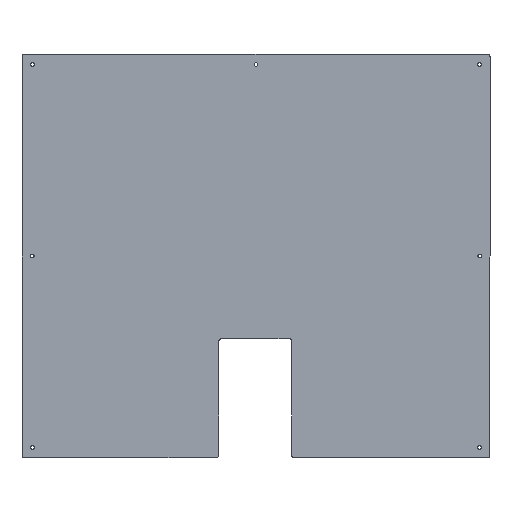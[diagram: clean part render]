
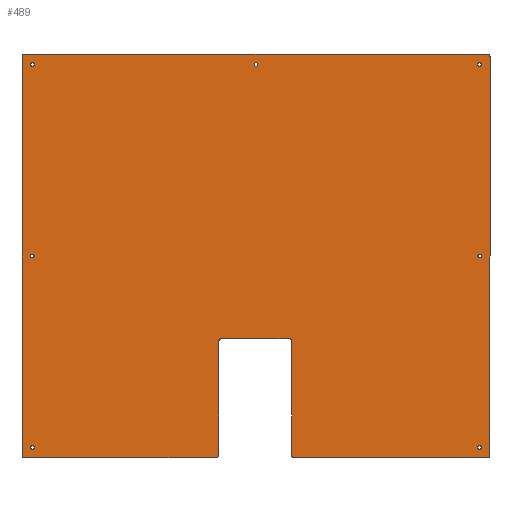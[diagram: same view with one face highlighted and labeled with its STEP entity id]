
A CAD part, left-side view. The second image highlights one B-rep face of the part: STEP entity #489.
In plain terms, the highlighted planar face has unit normal (-1, 0, 0).
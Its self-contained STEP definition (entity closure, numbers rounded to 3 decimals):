
#22=FACE_BOUND('',#82,.T.);
#23=FACE_BOUND('',#83,.T.);
#24=FACE_BOUND('',#84,.T.);
#25=FACE_BOUND('',#85,.T.);
#26=FACE_BOUND('',#86,.T.);
#27=FACE_BOUND('',#87,.T.);
#28=FACE_BOUND('',#88,.T.);
#35=PLANE('',#547);
#49=FACE_OUTER_BOUND('',#81,.T.);
#81=EDGE_LOOP('',(#385,#386,#387,#388,#389,#390,#391,#392,#393,#394,#395,
#396,#397,#398,#399,#400));
#82=EDGE_LOOP('',(#401));
#83=EDGE_LOOP('',(#402));
#84=EDGE_LOOP('',(#403));
#85=EDGE_LOOP('',(#404));
#86=EDGE_LOOP('',(#405));
#87=EDGE_LOOP('',(#406));
#88=EDGE_LOOP('',(#407));
#107=LINE('',#739,#146);
#117=LINE('',#790,#156);
#120=LINE('',#798,#159);
#123=LINE('',#806,#162);
#125=LINE('',#809,#164);
#126=LINE('',#814,#165);
#127=LINE('',#818,#166);
#128=LINE('',#822,#167);
#146=VECTOR('',#587,10.);
#156=VECTOR('',#633,10.);
#159=VECTOR('',#642,10.);
#162=VECTOR('',#651,10.);
#164=VECTOR('',#655,10.);
#165=VECTOR('',#660,10.);
#166=VECTOR('',#663,10.);
#167=VECTOR('',#666,10.);
#182=CIRCLE('',#520,5.);
#197=CIRCLE('',#538,5.);
#198=CIRCLE('',#541,5.);
#199=CIRCLE('',#544,5.);
#200=CIRCLE('',#548,5.);
#201=CIRCLE('',#549,5.);
#202=CIRCLE('',#550,5.);
#203=CIRCLE('',#551,5.);
#204=CIRCLE('',#552,3.5);
#205=CIRCLE('',#553,3.5);
#206=CIRCLE('',#554,3.5);
#207=CIRCLE('',#555,3.5);
#208=CIRCLE('',#556,3.5);
#209=CIRCLE('',#557,3.5);
#210=CIRCLE('',#558,3.5);
#213=VERTEX_POINT('',#729);
#214=VERTEX_POINT('',#731);
#216=VERTEX_POINT('',#737);
#237=VERTEX_POINT('',#783);
#238=VERTEX_POINT('',#784);
#239=VERTEX_POINT('',#789);
#240=VERTEX_POINT('',#793);
#241=VERTEX_POINT('',#797);
#242=VERTEX_POINT('',#801);
#243=VERTEX_POINT('',#805);
#244=VERTEX_POINT('',#811);
#245=VERTEX_POINT('',#813);
#246=VERTEX_POINT('',#815);
#247=VERTEX_POINT('',#817);
#248=VERTEX_POINT('',#819);
#249=VERTEX_POINT('',#821);
#250=VERTEX_POINT('',#824);
#251=VERTEX_POINT('',#826);
#252=VERTEX_POINT('',#828);
#253=VERTEX_POINT('',#830);
#254=VERTEX_POINT('',#832);
#255=VERTEX_POINT('',#834);
#256=VERTEX_POINT('',#836);
#259=EDGE_CURVE('',#213,#214,#182,.T.);
#263=EDGE_CURVE('',#216,#213,#107,.T.);
#285=EDGE_CURVE('',#237,#238,#197,.T.);
#288=EDGE_CURVE('',#239,#238,#117,.T.);
#290=EDGE_CURVE('',#239,#240,#198,.T.);
#292=EDGE_CURVE('',#241,#240,#120,.T.);
#294=EDGE_CURVE('',#241,#242,#199,.T.);
#296=EDGE_CURVE('',#242,#243,#123,.T.);
#298=EDGE_CURVE('',#237,#214,#125,.T.);
#299=EDGE_CURVE('',#244,#216,#200,.T.);
#300=EDGE_CURVE('',#245,#244,#126,.T.);
#301=EDGE_CURVE('',#246,#245,#201,.T.);
#302=EDGE_CURVE('',#247,#246,#127,.T.);
#303=EDGE_CURVE('',#248,#247,#202,.T.);
#304=EDGE_CURVE('',#249,#248,#128,.T.);
#305=EDGE_CURVE('',#243,#249,#203,.T.);
#306=EDGE_CURVE('',#250,#250,#204,.T.);
#307=EDGE_CURVE('',#251,#251,#205,.T.);
#308=EDGE_CURVE('',#252,#252,#206,.T.);
#309=EDGE_CURVE('',#253,#253,#207,.T.);
#310=EDGE_CURVE('',#254,#254,#208,.T.);
#311=EDGE_CURVE('',#255,#255,#209,.T.);
#312=EDGE_CURVE('',#256,#256,#210,.T.);
#385=ORIENTED_EDGE('',*,*,#259,.F.);
#386=ORIENTED_EDGE('',*,*,#263,.F.);
#387=ORIENTED_EDGE('',*,*,#299,.F.);
#388=ORIENTED_EDGE('',*,*,#300,.F.);
#389=ORIENTED_EDGE('',*,*,#301,.F.);
#390=ORIENTED_EDGE('',*,*,#302,.F.);
#391=ORIENTED_EDGE('',*,*,#303,.F.);
#392=ORIENTED_EDGE('',*,*,#304,.F.);
#393=ORIENTED_EDGE('',*,*,#305,.F.);
#394=ORIENTED_EDGE('',*,*,#296,.F.);
#395=ORIENTED_EDGE('',*,*,#294,.F.);
#396=ORIENTED_EDGE('',*,*,#292,.T.);
#397=ORIENTED_EDGE('',*,*,#290,.F.);
#398=ORIENTED_EDGE('',*,*,#288,.T.);
#399=ORIENTED_EDGE('',*,*,#285,.F.);
#400=ORIENTED_EDGE('',*,*,#298,.T.);
#401=ORIENTED_EDGE('',*,*,#306,.T.);
#402=ORIENTED_EDGE('',*,*,#307,.T.);
#403=ORIENTED_EDGE('',*,*,#308,.T.);
#404=ORIENTED_EDGE('',*,*,#309,.T.);
#405=ORIENTED_EDGE('',*,*,#310,.T.);
#406=ORIENTED_EDGE('',*,*,#311,.T.);
#407=ORIENTED_EDGE('',*,*,#312,.T.);
#489=ADVANCED_FACE('',(#49,#22,#23,#24,#25,#26,#27,#28),#35,.F.);
#520=AXIS2_PLACEMENT_3D('',#732,#580,#581);
#538=AXIS2_PLACEMENT_3D('',#785,#627,#628);
#541=AXIS2_PLACEMENT_3D('',#794,#637,#638);
#544=AXIS2_PLACEMENT_3D('',#802,#646,#647);
#547=AXIS2_PLACEMENT_3D('',#810,#656,#657);
#548=AXIS2_PLACEMENT_3D('',#812,#658,#659);
#549=AXIS2_PLACEMENT_3D('',#816,#661,#662);
#550=AXIS2_PLACEMENT_3D('',#820,#664,#665);
#551=AXIS2_PLACEMENT_3D('',#823,#667,#668);
#552=AXIS2_PLACEMENT_3D('',#825,#669,#670);
#553=AXIS2_PLACEMENT_3D('',#827,#671,#672);
#554=AXIS2_PLACEMENT_3D('',#829,#673,#674);
#555=AXIS2_PLACEMENT_3D('',#831,#675,#676);
#556=AXIS2_PLACEMENT_3D('',#833,#677,#678);
#557=AXIS2_PLACEMENT_3D('',#835,#679,#680);
#558=AXIS2_PLACEMENT_3D('',#837,#681,#682);
#580=DIRECTION('center_axis',(1.,0.,0.));
#581=DIRECTION('ref_axis',(0.,0.707,-0.707));
#587=DIRECTION('',(0.,1.,0.));
#627=DIRECTION('center_axis',(-1.,0.,0.));
#628=DIRECTION('ref_axis',(0.,-0.707,0.707));
#633=DIRECTION('',(0.,-1.,0.));
#637=DIRECTION('center_axis',(-1.,0.,0.));
#638=DIRECTION('ref_axis',(0.,0.707,0.707));
#642=DIRECTION('',(0.,0.,1.));
#646=DIRECTION('center_axis',(1.,0.,0.));
#647=DIRECTION('ref_axis',(0.,-0.707,-0.707));
#651=DIRECTION('',(0.,1.,0.));
#655=DIRECTION('',(0.,0.,-1.));
#656=DIRECTION('center_axis',(1.,0.,0.));
#657=DIRECTION('ref_axis',(0.,1.,0.));
#658=DIRECTION('center_axis',(1.,0.,0.));
#659=DIRECTION('ref_axis',(0.,-1.,0.));
#660=DIRECTION('',(0.,0.,-1.));
#661=DIRECTION('center_axis',(1.,0.,0.));
#662=DIRECTION('ref_axis',(0.,0.,1.));
#663=DIRECTION('',(0.,-1.,0.));
#664=DIRECTION('center_axis',(1.,0.,0.));
#665=DIRECTION('ref_axis',(0.,1.,0.));
#666=DIRECTION('',(0.,0.,1.));
#667=DIRECTION('center_axis',(1.,0.,0.));
#668=DIRECTION('ref_axis',(0.,0.,-1.));
#669=DIRECTION('center_axis',(1.,0.,0.));
#670=DIRECTION('ref_axis',(0.,1.,0.));
#671=DIRECTION('center_axis',(1.,0.,0.));
#672=DIRECTION('ref_axis',(0.,1.,0.));
#673=DIRECTION('center_axis',(1.,0.,0.));
#674=DIRECTION('ref_axis',(0.,1.,0.));
#675=DIRECTION('center_axis',(1.,0.,0.));
#676=DIRECTION('ref_axis',(0.,1.,0.));
#677=DIRECTION('center_axis',(1.,0.,0.));
#678=DIRECTION('ref_axis',(0.,1.,0.));
#679=DIRECTION('center_axis',(1.,0.,0.));
#680=DIRECTION('ref_axis',(0.,1.,0.));
#681=DIRECTION('center_axis',(1.,0.,0.));
#682=DIRECTION('ref_axis',(0.,1.,0.));
#729=CARTESIAN_POINT('',(0.,378.,0.));
#731=CARTESIAN_POINT('',(0.,383.,5.));
#732=CARTESIAN_POINT('Origin',(0.,378.,5.));
#737=CARTESIAN_POINT('',(0.,5.,0.));
#739=CARTESIAN_POINT('',(0.,5.,0.));
#783=CARTESIAN_POINT('',(0.,383.,225.));
#784=CARTESIAN_POINT('',(0.,388.,230.));
#785=CARTESIAN_POINT('Origin',(0.,388.,225.));
#789=CARTESIAN_POINT('',(0.,519.,230.));
#790=CARTESIAN_POINT('',(0.,488.,230.));
#793=CARTESIAN_POINT('',(0.,524.,225.));
#794=CARTESIAN_POINT('Origin',(0.,519.,225.));
#797=CARTESIAN_POINT('',(0.,524.,5.));
#798=CARTESIAN_POINT('',(0.,524.,195.));
#801=CARTESIAN_POINT('',(0.,529.,0.));
#802=CARTESIAN_POINT('Origin',(0.,529.,5.));
#805=CARTESIAN_POINT('',(0.,899.,0.));
#806=CARTESIAN_POINT('',(0.,5.,0.));
#809=CARTESIAN_POINT('',(0.,383.,310.));
#810=CARTESIAN_POINT('Origin',(0.,452.,390.));
#811=CARTESIAN_POINT('',(0.,0.,5.));
#812=CARTESIAN_POINT('Origin',(0.,5.,5.));
#813=CARTESIAN_POINT('',(0.,0.,775.));
#814=CARTESIAN_POINT('',(0.,0.,775.));
#815=CARTESIAN_POINT('',(0.,5.,780.));
#816=CARTESIAN_POINT('Origin',(0.,5.,775.));
#817=CARTESIAN_POINT('',(0.,899.,780.));
#818=CARTESIAN_POINT('',(0.,899.,780.));
#819=CARTESIAN_POINT('',(0.,904.,775.));
#820=CARTESIAN_POINT('Origin',(0.,899.,775.));
#821=CARTESIAN_POINT('',(0.,904.,5.));
#822=CARTESIAN_POINT('',(0.,904.,5.));
#823=CARTESIAN_POINT('Origin',(0.,899.,5.));
#824=CARTESIAN_POINT('',(0.,16.5,20.));
#825=CARTESIAN_POINT('Origin',(0.,20.,20.));
#826=CARTESIAN_POINT('',(0.,880.5,390.));
#827=CARTESIAN_POINT('Origin',(0.,884.,390.));
#828=CARTESIAN_POINT('',(0.,880.5,760.));
#829=CARTESIAN_POINT('Origin',(0.,884.,760.));
#830=CARTESIAN_POINT('',(0.,16.5,760.));
#831=CARTESIAN_POINT('Origin',(0.,20.,760.));
#832=CARTESIAN_POINT('',(0.,448.5,760.));
#833=CARTESIAN_POINT('Origin',(0.,452.,760.));
#834=CARTESIAN_POINT('',(0.,880.5,20.));
#835=CARTESIAN_POINT('Origin',(0.,884.,20.));
#836=CARTESIAN_POINT('',(0.,16.5,390.));
#837=CARTESIAN_POINT('Origin',(0.,20.,390.));
